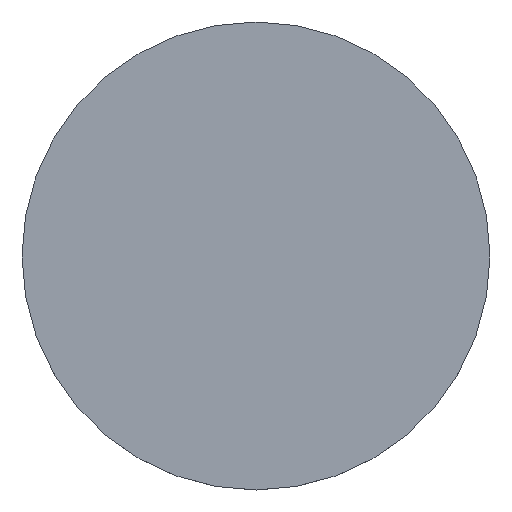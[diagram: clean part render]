
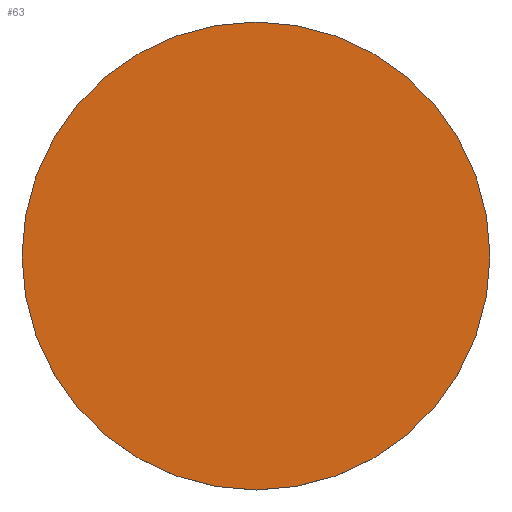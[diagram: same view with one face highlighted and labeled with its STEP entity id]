
A CAD part, top view. The second image highlights one B-rep face of the part: STEP entity #63.
In plain terms, the highlighted planar face has unit normal (0, 0, 1).
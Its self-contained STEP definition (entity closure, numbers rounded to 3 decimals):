
#63=ADVANCED_FACE('',(#83),#84,.T.);
#83=FACE_OUTER_BOUND('',#103,.T.);
#84=PLANE('',#104);
#103=EDGE_LOOP('',(#162,#163));
#104=AXIS2_PLACEMENT_3D('',#164,#165,#166);
#162=ORIENTED_EDGE('',*,*,#180,.T.);
#163=ORIENTED_EDGE('',*,*,#181,.T.);
#164=CARTESIAN_POINT('',(0.0,0.0,4.0));
#165=DIRECTION('',(0.0,0.0,1.0));
#166=DIRECTION('',(1.0,0.0,0.0));
#180=EDGE_CURVE('',#200,#204,#206,.T.);
#181=EDGE_CURVE('',#204,#200,#207,.T.);
#200=VERTEX_POINT('',#228);
#204=VERTEX_POINT('',#233);
#206=CIRCLE('',#236,10.0);
#207=CIRCLE('',#237,10.0);
#228=CARTESIAN_POINT('',(10.0,0.0,4.0));
#233=CARTESIAN_POINT('',(-10.0,0.,4.0));
#236=AXIS2_PLACEMENT_3D('',#270,#271,#272);
#237=AXIS2_PLACEMENT_3D('',#273,#274,#275);
#270=CARTESIAN_POINT('',(0.0,0.0,4.0));
#271=DIRECTION('',(0.0,0.0,1.0));
#272=DIRECTION('',(1.0,0.0,0.0));
#273=CARTESIAN_POINT('',(0.0,0.0,4.0));
#274=DIRECTION('',(0.0,0.0,1.0));
#275=DIRECTION('',(1.0,0.0,0.0));
